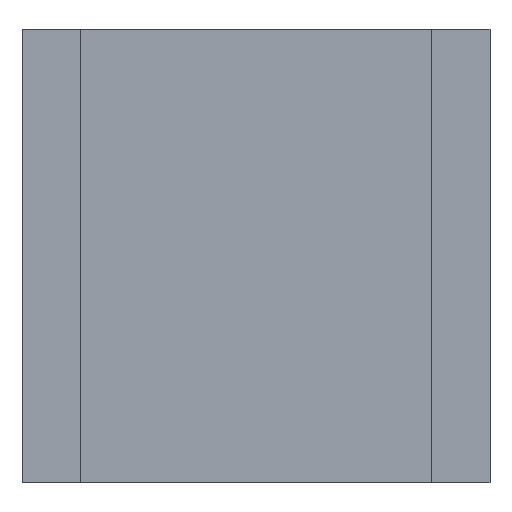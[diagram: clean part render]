
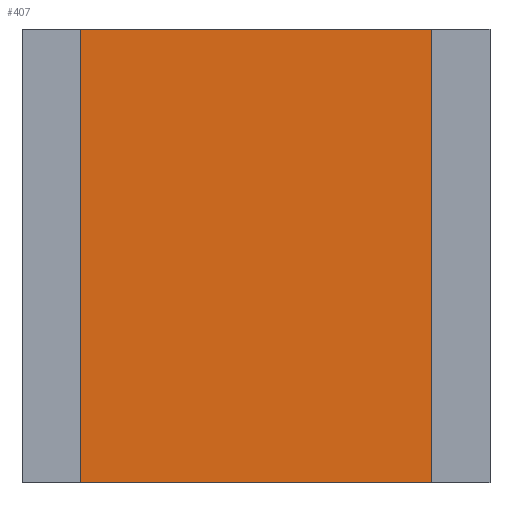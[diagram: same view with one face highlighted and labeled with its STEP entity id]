
A CAD part, left-side view. The second image highlights one B-rep face of the part: STEP entity #407.
In plain terms, the highlighted planar face has unit normal (-1, 0, 0).
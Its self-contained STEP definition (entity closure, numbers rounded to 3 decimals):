
#389=AXIS2_PLACEMENT_3D('Plane Axis2P3D',#386,#387,#388) ;
#83=CARTESIAN_POINT('Vertex',(15.,3.,-20.3)) ;
#116=CARTESIAN_POINT('Vertex',(15.,-27.,-20.3)) ;
#119=CARTESIAN_POINT('Line Origine',(15.,-12.,-20.3)) ;
#200=CARTESIAN_POINT('Line Origine',(15.,-12.,18.5)) ;
#204=CARTESIAN_POINT('Vertex',(15.,3.,18.5)) ;
#206=CARTESIAN_POINT('Vertex',(15.,-27.,18.5)) ;
#386=CARTESIAN_POINT('Axis2P3D Location',(15.,8.,18.5)) ;
#391=CARTESIAN_POINT('Line Origine',(15.,3.,-0.9)) ;
#396=CARTESIAN_POINT('Line Origine',(15.,-27.,-0.9)) ;
#120=DIRECTION('Vector Direction',(0.,-1.,0.)) ;
#201=DIRECTION('Vector Direction',(0.,-1.,0.)) ;
#387=DIRECTION('Axis2P3D Direction',(-1.,-0.,0.)) ;
#388=DIRECTION('Axis2P3D XDirection',(0.,-0.,-1.)) ;
#392=DIRECTION('Vector Direction',(0.,0.,1.)) ;
#397=DIRECTION('Vector Direction',(0.,0.,1.)) ;
#121=VECTOR('Line Direction',#120,1.) ;
#202=VECTOR('Line Direction',#201,1.) ;
#393=VECTOR('Line Direction',#392,1.) ;
#398=VECTOR('Line Direction',#397,1.) ;
#402=ORIENTED_EDGE('',*,*,#395,.F.) ;
#403=ORIENTED_EDGE('',*,*,#123,.T.) ;
#404=ORIENTED_EDGE('',*,*,#400,.T.) ;
#405=ORIENTED_EDGE('',*,*,#208,.F.) ;
#407=ADVANCED_FACE('\X2\96F64EF651E04F554F53\X0\',(#406),#390,.T.) ;
#123=EDGE_CURVE('',#84,#117,#122,.T.) ;
#208=EDGE_CURVE('',#205,#207,#203,.T.) ;
#395=EDGE_CURVE('',#84,#205,#394,.T.) ;
#400=EDGE_CURVE('',#117,#207,#399,.T.) ;
#401=EDGE_LOOP('',(#402,#403,#404,#405)) ;
#406=FACE_OUTER_BOUND('',#401,.T.) ;
#122=LINE('Line',#119,#121) ;
#203=LINE('Line',#200,#202) ;
#394=LINE('Line',#391,#393) ;
#399=LINE('Line',#396,#398) ;
#390=PLANE('',#389) ;
#84=VERTEX_POINT('',#83) ;
#117=VERTEX_POINT('',#116) ;
#205=VERTEX_POINT('',#204) ;
#207=VERTEX_POINT('',#206) ;
